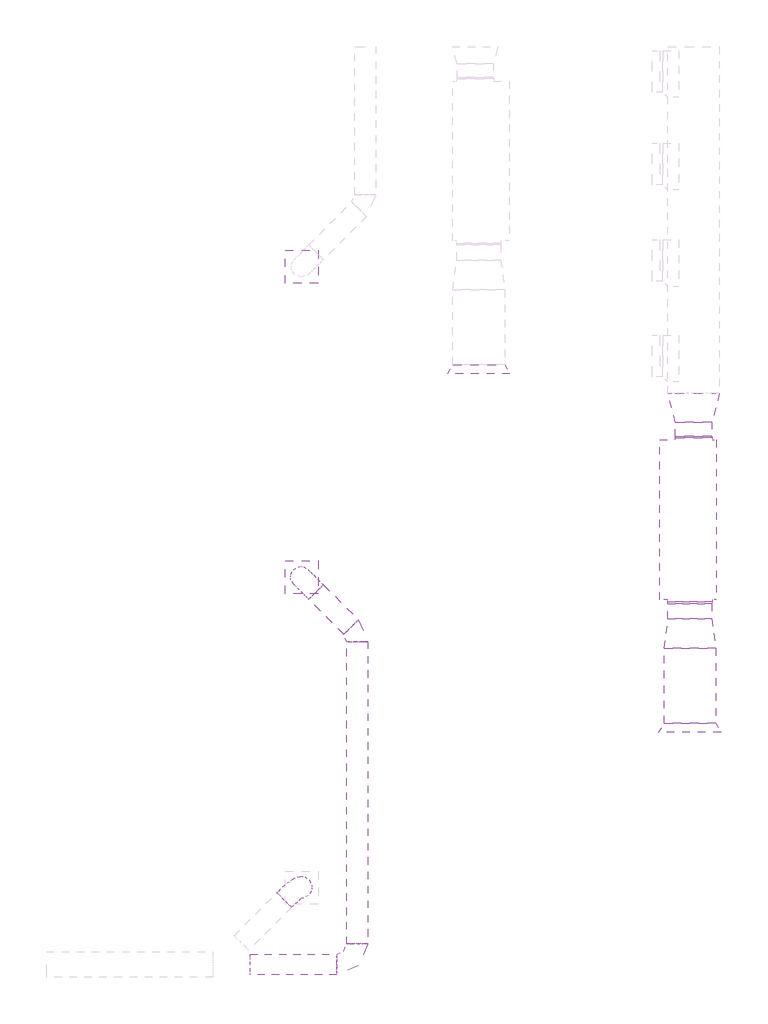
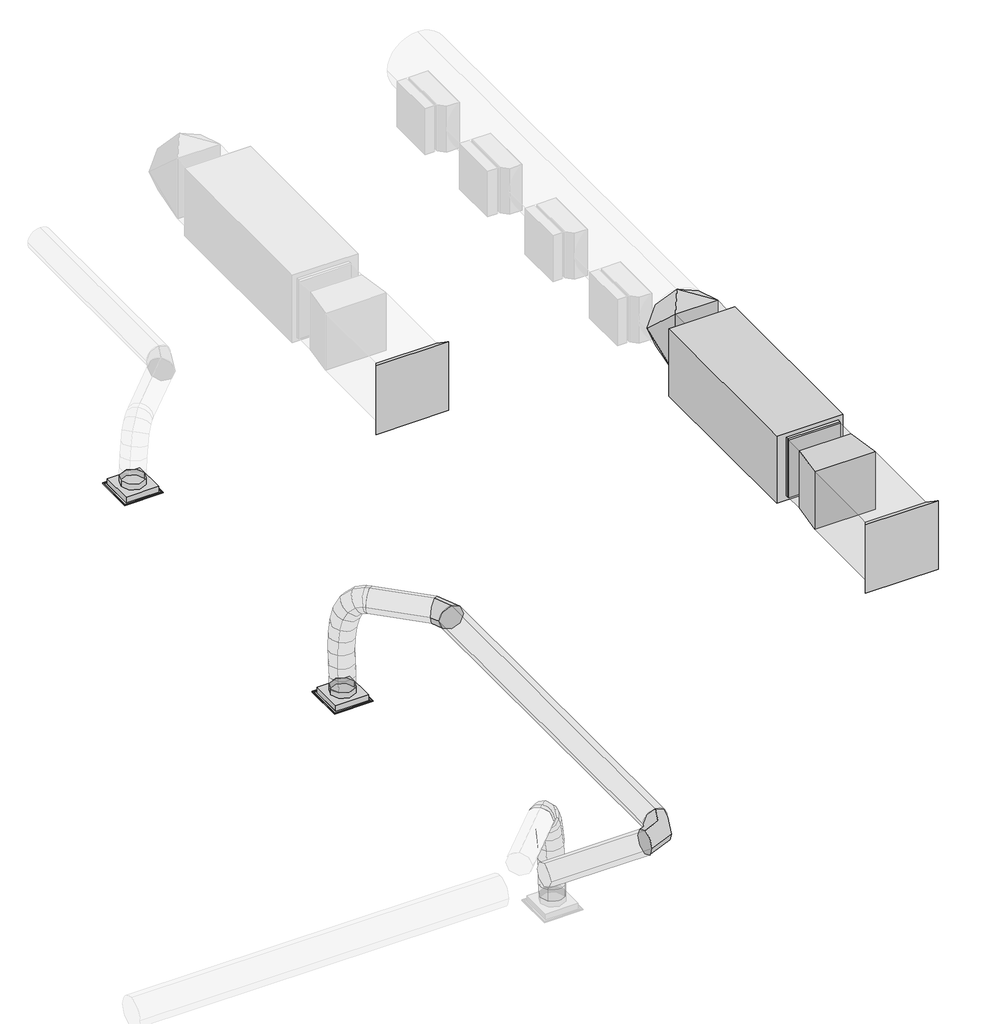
# One storey, part 28 of 33: 8 duct fittings, 8 duct segments, 2 air terminals, 1 proxy.
"""IFC4 building model written with IfcOpenShell, lengths in millimetres."""

from ifc_helpers import new_model, si_unit, point, frame, frame_2d, origin, place, context, project, spatial, polyline, circle_curve, ellipse_curve, trimmed, segment, composite_curve, outline, extrude, transform, mapped, element, save
from ifc_brep_helpers import plane_surface, cylinder_surface, advanced_brep
from components import air_terminal_0721d01d, mechanical_equipment_cb130376, rectangular_transition_angle_15_degree_744037f3, rectangular_transition_angle_45_degree_dbe4abd4, rectangular_transition_angle_45_degree_2e22f6ee, rectangular_transition_angle_60_degree_5d9a766a, rectangular_transition_angle_60_degree_c552a1ca, rectangular_to_round_transition_angle_30_degree_7764bc1d, round_elbow_1_d_a253342a, round_elbow_1_d_ab3aa7ba

model = new_model("IFC4")

# Units and contexts
model_context = context("Model", 3, world=origin())
ifc_project = project(units=[si_unit("LENGTHUNIT", "METRE", prefix="MILLI")], contexts=[model_context])

# Site, building, storey
site = spatial("IfcSite", under=ifc_project)
building = spatial("IfcBuilding", under=site)
storey = spatial("IfcBuildingStorey", under=building, Name="T.O. SLAB - 1ST", Elevation=-25.4)

# Air terminals
placement = place(None, origin())
air_terminal_shape = air_terminal_0721d01d(model_context)
element("IfcAirTerminal", 1, ObjectType="Titus-Round_Neck_Supply_Diffuser-PCS_Surface_Mount : PCS AA-08_12x12", at=placement, inside=storey, context=model_context, shape_type="MappedRepresentation", body=[
    mapped(air_terminal_shape, transform((32951.0705131, 12914.4211025, 3022.6), x_axis=(1.0, 0.0, 0.0), y_axis=(0.0, -1.0, 0.0), z_axis=(0.0, 0.0, -1.0))),
])
element("IfcAirTerminal", 2, ObjectType="Titus-Round_Neck_Supply_Diffuser-PCS_Surface_Mount : PCS AA-08_12x12", at=placement, inside=storey, context=model_context, shape_type="MappedRepresentation", body=[
    mapped(air_terminal_shape, transform((32951.0705131, 9866.4211025, 3022.6), x_axis=(1.0, 0.0, 0.0), y_axis=(0.0, -1.0, 0.0), z_axis=(0.0, 0.0, -1.0))),
])

# Proxy
mechanical_equipment_shape = mechanical_equipment_cb130376(model_context)
element("IfcBuildingElementProxy", 3, Name="FC-4 & 5 : FC-4 & 5", ObjectType="FC-4 & 5 : FC-4 & 5", at=placement, inside=storey, context=model_context, shape_type="MappedRepresentation", body=[
    mapped(mechanical_equipment_shape, transform((36742.477168, 10431.6912741, 3632.2), x_axis=(-1.0, 0.0, 0.0), y_axis=(0.0, -1.0, 0.0), z_axis=(0.0, 0.0, 1.0))),
])

# Duct fittings
rectangular_transition_angle_15_degree_shape = rectangular_transition_angle_15_degree_744037f3(model_context)
element("IfcDuctFitting", 4, ObjectType="Rectangular Transition - Angle : 15 Degree", at=placement, inside=storey, context=model_context, shape_type="MappedRepresentation", body=[
    mapped(rectangular_transition_angle_15_degree_shape, transform((36763.432168, 9171.3569264, 3930.65), x_axis=(0.0, 1.0, 0.0), y_axis=(-1.0, 0.0, 0.0), z_axis=(0.0, 0.0, 1.0))),
])
rectangular_transition_angle_45_degree_shape = rectangular_transition_angle_45_degree_dbe4abd4(model_context)
element("IfcDuctFitting", 5, ObjectType="Rectangular Transition - Angle : 45 Degree", at=placement, inside=storey, context=model_context, shape_type="MappedRepresentation", body=[
    mapped(rectangular_transition_angle_45_degree_shape, transform((36798.992168, 11238.003855, 3930.65), x_axis=(0.0, 1.0, 0.0), y_axis=(-1.0, 0.0, 0.0), z_axis=(0.0, 0.0, 1.0))),
])
rectangular_transition_angle_45_degree_2_shape = rectangular_transition_angle_45_degree_2e22f6ee(model_context)
element("IfcDuctFitting", 6, ObjectType="Rectangular Transition - Angle : 45 Degree", at=placement, inside=storey, context=model_context, shape_type="MappedRepresentation", body=[
    mapped(rectangular_transition_angle_45_degree_2_shape, transform((36763.432168, 9625.3786932, 3930.65), x_axis=(0.0, -1.0, 0.0), y_axis=(1.0, 0.0, 0.0), z_axis=(0.0, 0.0, 1.0))),
])
rectangular_transition_angle_60_degree_shape = rectangular_transition_angle_60_degree_5d9a766a(model_context)
element("IfcDuctFitting", 7, ObjectType="Rectangular Transition - Angle : 60 Degree", at=placement, inside=storey, context=model_context, shape_type="MappedRepresentation", body=[
    mapped(rectangular_transition_angle_60_degree_shape, transform((34690.541406, 11865.9001381, 3930.65), x_axis=(0.0, 1.0, 0.0), y_axis=(-1.0, 0.0, 0.0), z_axis=(0.0, 0.0, 1.0))),
])
rectangular_transition_angle_60_degree_2_shape = rectangular_transition_angle_60_degree_c552a1ca(model_context)
element("IfcDuctFitting", 8, ObjectType="Rectangular Transition - Angle : 60 Degree", at=placement, inside=storey, context=model_context, shape_type="MappedRepresentation", body=[
    mapped(rectangular_transition_angle_60_degree_2_shape, transform((36763.432168, 8345.8531972, 3930.65), x_axis=(0.0, 1.0, 0.0), y_axis=(-1.0, 0.0, 0.0), z_axis=(0.0, 0.0, 1.0))),
])
rectangular_to_round_transition_angle_30_degree_shape = rectangular_to_round_transition_angle_30_degree_7764bc1d(model_context)
element("IfcDuctFitting", 9, ObjectType="Rectangular to Round Transition - Angle : 30 Degree", at=placement, inside=storey, context=model_context, shape_type="MappedRepresentation", body=[
    mapped(rectangular_to_round_transition_angle_30_degree_shape, transform((36798.992168, 11388.2426268, 3930.65), x_axis=(0.0, 1.0, 0.0), y_axis=(-1.0, 0.0, 0.0), z_axis=(0.0, 0.0, 1.0))),
])
round_elbow_1_d_shape = round_elbow_1_d_a253342a(model_context)
element("IfcDuctFitting", 10, ObjectType="Round Elbow : 1 D", at=placement, inside=storey, context=model_context, shape_type="MappedRepresentation", body=[
    mapped(round_elbow_1_d_shape, transform((33497.9407485, 6067.3602571, 3911.6), x_axis=(1.0, 0.0, 0.0), y_axis=(0.0, 1.0, 0.0), z_axis=(0.0, 0.0, 1.0))),
])
round_elbow_1_d_2_shape = round_elbow_1_d_ab3aa7ba(model_context)
element("IfcDuctFitting", 11, ObjectType="Round Elbow : 1 D", at=placement, inside=storey, context=model_context, shape_type="MappedRepresentation", body=[
    mapped(round_elbow_1_d_2_shape, transform((33497.9407485, 9319.5509236, 3911.6), x_axis=(0.0, 1.0, 0.0), y_axis=(-1.0, 0.0, 0.0), z_axis=(0.0, 0.0, 1.0))),
])

# Duct segments
element("IfcDuctSegment", 12, ObjectType="Flex - Rectangular", at=placement, inside=storey, context=model_context, shape_type="SweptSolid", body=[
    extrude(outline(polyline([(36976.792168, 11253.3341112), (36621.192168, 11253.3341112), (36621.192168, 11388.2426268), (36976.792168, 11388.2426268), (36976.792168, 11253.3341112)])), frame((0.0, 0.0, 3663.95), z_axis=(0.0, 0.0, 1.0), x_axis=(1.0, 0.0, 0.0)), (0.0, 0.0, 1.0), 533.4),
])
element("IfcDuctSegment", 13, ObjectType="Flex - Rectangular", at=placement, inside=storey, context=model_context, shape_type="SweptSolid", body=[
    extrude(outline(polyline([(36979.332168, 9460.7551581), (36547.532168, 9460.7551581), (36547.532168, 9610.0484371), (36979.332168, 9610.0484371), (36979.332168, 9460.7551581)])), frame((0.0, 0.0, 3676.65), z_axis=(0.0, 0.0, 1.0), x_axis=(1.0, 0.0, 0.0)), (0.0, 0.0, 1.0), 508.0),
])
element("IfcDuctSegment", 14, ObjectType="Flex - Round", at=placement, inside=storey, context=model_context, shape_type="AdvancedBrep", body=[
    advanced_brep(
    [(32710.1444886, 6771.9792357, 3911.6), (32781.9865375, 6700.1371867, 3810.0), (32853.8285865, 6628.2951378, 3911.6), (32781.9865375, 6700.1371867, 4013.2), (32727.0627676, 6788.8975148, 3911.6), (32786.7691925, 6704.9198417, 3810.0), (32869.2098315, 6643.6763828, 3911.6), (32809.5034066, 6727.6540558, 4013.2), (32883.8425875, 6894.5856537, 3116.4617758), (33027.2455146, 6885.6218515, 3115.8528877), (33018.2984386, 6742.2565513, 3119.2382242), (32874.8955115, 6751.2203534, 3119.8471123), (32769.3017299, 6829.3222917, 3892.6258162), (32801.7358232, 6719.2436478, 3803.2768329), (32908.0928013, 6680.8893089, 3894.1333631), (32875.6587081, 6790.9679528, 3983.4823463), (32813.2896689, 6868.4877861, 3840.5155738), (32821.5524615, 6736.887767, 3779.8010836), (32949.2790229, 6717.5602411, 3845.3421708), (32941.0162302, 6849.1602602, 3906.056661), (32844.354036, 6892.6570892, 3762.6176884), (32840.9047945, 6751.9446456, 3731.2726261), (32979.1210143, 6740.7784878, 3770.5095492), (32982.5702558, 6881.4909314, 3801.8546115), (32864.8203628, 6905.0476197, 3665.9103905), (32857.4288651, 6761.9484925, 3653.1932407), (32999.2727384, 6752.9785544, 3675.2888092), (33006.664236, 6896.0776816, 3688.005959), (32876.9914519, 6908.7754485, 3556.5153369), (32868.394755, 6765.3071862, 3554.6306464), (33011.4108862, 6756.6962938, 3566.1898356), (33020.007583, 6900.1645561, 3568.074526), (32882.9653295, 6906.7571132, 3440.6130915), (32874.0661944, 6763.3910328, 3444.5961604), (33017.4169255, 6754.6670923, 3449.6636059), (33026.3160606, 6898.0331728, 3445.680537), (32884.7682306, 6901.8458371, 3324.5293509), (32875.834317, 6758.5744966, 3330.751709), (33019.2441155, 6749.6896507, 3332.015965), (33028.1780291, 6892.9609912, 3325.7936069), (32884.4028913, 6896.8719438, 3214.7644881), (32875.4647559, 6753.543125, 3219.7184033), (33018.8692138, 6744.5855691, 3219.3780816), (33027.8073492, 6887.914388, 3214.4241663)],
    [
        (0, 1, circle_curve(frame((32781.9865375, 6700.1371867, 3911.6), z_axis=(-0.7071067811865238, -0.7071067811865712, 0.0), x_axis=(-0.7071067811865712, 0.7071067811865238, 0.0)), 101.6)),
        (1, 2, circle_curve(frame((32781.9865375, 6700.1371867, 3911.6), z_axis=(-0.7071067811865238, -0.7071067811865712, 0.0), x_axis=(-0.7071067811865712, 0.7071067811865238, 0.0)), 101.6)),
        (2, 3, circle_curve(frame((32781.9865375, 6700.1371867, 3911.6), z_axis=(-0.7071067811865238, -0.7071067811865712, 0.0), x_axis=(-0.7071067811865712, 0.7071067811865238, 0.0)), 101.6)),
        (3, 0, circle_curve(frame((32781.9865375, 6700.1371867, 3911.6), z_axis=(-0.7071067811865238, -0.7071067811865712, 0.0), x_axis=(-0.7071067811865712, 0.7071067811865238, 0.0)), 101.6)),
        (0, 4),
        (4, 5, ellipse_curve(frame((32798.1362996, 6716.2869488, 3911.6), z_axis=(-0.7058502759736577, -0.6909087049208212, 0.15627075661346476), x_axis=(-0.06364327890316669, -0.15786145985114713, -0.9854081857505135)), 102.8696432, 101.6)),
        (5, 1),
        (5, 6, ellipse_curve(frame((32798.1362996, 6716.2869488, 3911.6), z_axis=(-0.7058502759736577, -0.6909087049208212, 0.15627075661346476), x_axis=(-0.06364327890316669, -0.15786145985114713, -0.9854081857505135)), 102.8696432, 101.6)),
        (6, 2),
        (6, 7, ellipse_curve(frame((32798.1362996, 6716.2869488, 3911.6), z_axis=(-0.7058502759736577, -0.6909087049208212, 0.15627075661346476), x_axis=(-0.06364327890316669, -0.15786145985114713, -0.9854081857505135)), 102.8696432, 101.6)),
        (7, 3),
        (7, 4, ellipse_curve(frame((32798.1362996, 6716.2869488, 3911.6), z_axis=(-0.7058502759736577, -0.6909087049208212, 0.15627075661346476), x_axis=(-0.06364327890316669, -0.15786145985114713, -0.9854081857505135)), 102.8696432, 101.6)),
        (8, 9, circle_curve(frame((32951.0705131, 6818.4211025, 3117.85), z_axis=(-0.005698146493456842, -0.023250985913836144, -0.9997134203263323), x_axis=(-0.6616921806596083, 0.7496510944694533, -0.0136636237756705)), 101.6)),
        (9, 10, circle_curve(frame((32951.0705131, 6818.4211025, 3117.85), z_axis=(-0.005698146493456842, -0.023250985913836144, -0.9997134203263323), x_axis=(-0.6616921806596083, 0.7496510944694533, -0.0136636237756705)), 101.6)),
        (10, 11, circle_curve(frame((32951.0705131, 6818.4211025, 3117.85), z_axis=(-0.005698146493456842, -0.023250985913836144, -0.9997134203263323), x_axis=(-0.6616921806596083, 0.7496510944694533, -0.0136636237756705)), 101.6)),
        (11, 8, circle_curve(frame((32951.0705131, 6818.4211025, 3117.85), z_axis=(-0.005698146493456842, -0.023250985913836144, -0.9997134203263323), x_axis=(-0.6616921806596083, 0.7496510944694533, -0.0136636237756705)), 101.6)),
        (4, 12),
        (12, 13, ellipse_curve(frame((32838.6972656, 6755.1058003, 3893.3795896), z_axis=(-0.6367029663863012, -0.590305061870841, 0.49613432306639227), x_axis=(-0.3126788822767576, -0.39049167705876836, -0.8658799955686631)), 103.7910648, 101.6)),
        (13, 5),
        (13, 14, ellipse_curve(frame((32838.6972656, 6755.1058003, 3893.3795896), z_axis=(-0.6367029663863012, -0.590305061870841, 0.49613432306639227), x_axis=(-0.3126788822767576, -0.39049167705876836, -0.8658799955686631)), 103.7910648, 101.6)),
        (14, 6),
        (14, 15, ellipse_curve(frame((32838.6972656, 6755.1058003, 3893.3795896), z_axis=(-0.6367029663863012, -0.590305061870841, 0.49613432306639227), x_axis=(-0.3126788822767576, -0.39049167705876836, -0.8658799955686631)), 103.7910648, 101.6)),
        (15, 7),
        (15, 12, ellipse_curve(frame((32838.6972656, 6755.1058003, 3893.3795896), z_axis=(-0.6367029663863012, -0.590305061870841, 0.49613432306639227), x_axis=(-0.3126788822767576, -0.39049167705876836, -0.8658799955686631)), 103.7910648, 101.6)),
        (12, 16),
        (16, 17, ellipse_curve(frame((32881.2843459, 6793.0240136, 3842.9288723), z_axis=(-0.4660554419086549, -0.3946030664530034, 0.7918843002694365), x_axis=(-0.5377097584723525, -0.584442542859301, -0.6076965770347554)), 103.4679417, 101.6)),
        (17, 13),
        (17, 18, ellipse_curve(frame((32881.2843459, 6793.0240136, 3842.9288723), z_axis=(-0.4660554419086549, -0.3946030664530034, 0.7918843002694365), x_axis=(-0.5377097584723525, -0.584442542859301, -0.6076965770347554)), 103.4679417, 101.6)),
        (18, 14),
        (18, 19, ellipse_curve(frame((32881.2843459, 6793.0240136, 3842.9288723), z_axis=(-0.4660554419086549, -0.3946030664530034, 0.7918843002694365), x_axis=(-0.5377097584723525, -0.584442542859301, -0.6076965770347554)), 103.4679417, 101.6)),
        (19, 15),
        (19, 16, ellipse_curve(frame((32881.2843459, 6793.0240136, 3842.9288723), z_axis=(-0.4660554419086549, -0.3946030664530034, 0.7918843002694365), x_axis=(-0.5377097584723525, -0.584442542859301, -0.6076965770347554)), 103.4679417, 101.6)),
        (16, 20),
        (20, 21, ellipse_curve(frame((32911.7375252, 6816.7177885, 3766.5636188), z_axis=(-0.28252751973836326, -0.20196879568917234, 0.9377562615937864), x_axis=(-0.6597285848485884, -0.668765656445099, -0.3427983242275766)), 102.267357, 101.6)),
        (21, 17),
        (21, 22, ellipse_curve(frame((32911.7375252, 6816.7177885, 3766.5636188), z_axis=(-0.28252751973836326, -0.20196879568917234, 0.9377562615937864), x_axis=(-0.6597285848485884, -0.668765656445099, -0.3427983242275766)), 102.267357, 101.6)),
        (22, 18),
        (22, 23, ellipse_curve(frame((32911.7375252, 6816.7177885, 3766.5636188), z_axis=(-0.28252751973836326, -0.20196879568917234, 0.9377562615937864), x_axis=(-0.6597285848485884, -0.668765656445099, -0.3427983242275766)), 102.267357, 101.6)),
        (23, 19),
        (23, 20, ellipse_curve(frame((32911.7375252, 6816.7177885, 3766.5636188), z_axis=(-0.28252751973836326, -0.20196879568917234, 0.9377562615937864), x_axis=(-0.6597285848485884, -0.668765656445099, -0.3427983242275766)), 102.267357, 101.6)),
        (20, 24),
        (24, 25, ellipse_curve(frame((32932.0465506, 6829.013087, 3670.5995999), z_axis=(-0.15832634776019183, -0.07928719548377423, 0.9841983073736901), x_axis=(-0.7132039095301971, -0.6801481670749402, -0.16952478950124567)), 101.8257302, 101.6)),
        (25, 21),
        (25, 26, ellipse_curve(frame((32932.0465506, 6829.013087, 3670.5995999), z_axis=(-0.15832634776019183, -0.07928719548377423, 0.9841983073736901), x_axis=(-0.7132039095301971, -0.6801481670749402, -0.16952478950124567)), 101.8257302, 101.6)),
        (26, 22),
        (26, 27, ellipse_curve(frame((32932.0465506, 6829.013087, 3670.5995999), z_axis=(-0.15832634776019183, -0.07928719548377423, 0.9841983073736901), x_axis=(-0.7132039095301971, -0.6801481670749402, -0.16952478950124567)), 101.8257302, 101.6)),
        (27, 23),
        (27, 24, ellipse_curve(frame((32932.0465506, 6829.013087, 3670.5995999), z_axis=(-0.15832634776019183, -0.07928719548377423, 0.9841983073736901), x_axis=(-0.7132039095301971, -0.6801481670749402, -0.16952478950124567)), 101.8257302, 101.6)),
        (24, 28),
        (28, 29, ellipse_curve(frame((32944.201169, 6832.7358711, 3561.3525862), z_axis=(-0.08105160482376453, -0.008236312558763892, 0.9966758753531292), x_axis=(-0.7536062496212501, -0.6539344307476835, -0.06668868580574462)), 101.6780547, 101.6)),
        (29, 25),
        (29, 30, ellipse_curve(frame((32944.201169, 6832.7358711, 3561.3525862), z_axis=(-0.08105160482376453, -0.008236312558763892, 0.9966758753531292), x_axis=(-0.7536062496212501, -0.6539344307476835, -0.06668868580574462)), 101.6780547, 101.6)),
        (30, 26),
        (30, 31, ellipse_curve(frame((32944.201169, 6832.7358711, 3561.3525862), z_axis=(-0.08105160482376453, -0.008236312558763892, 0.9966758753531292), x_axis=(-0.7536062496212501, -0.6539344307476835, -0.06668868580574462)), 101.6780547, 101.6)),
        (31, 27),
        (31, 28, ellipse_curve(frame((32944.201169, 6832.7358711, 3561.3525862), z_axis=(-0.08105160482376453, -0.008236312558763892, 0.9966758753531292), x_axis=(-0.7536062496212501, -0.6539344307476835, -0.06668868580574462)), 101.6780547, 101.6)),
        (28, 32),
        (32, 33, ellipse_curve(frame((32950.1911275, 6830.7121028, 3445.1383487), z_axis=(-0.033498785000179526, 0.029833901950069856, 0.9989933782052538), x_axis=(-0.8222788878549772, -0.5689863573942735, -0.010580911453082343)), 101.6242853, 101.6)),
        (33, 29),
        (33, 34, ellipse_curve(frame((32950.1911275, 6830.7121028, 3445.1383487), z_axis=(-0.033498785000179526, 0.029833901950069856, 0.9989933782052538), x_axis=(-0.8222788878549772, -0.5689863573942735, -0.010580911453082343)), 101.6242853, 101.6)),
        (34, 30),
        (34, 35, ellipse_curve(frame((32950.1911275, 6830.7121028, 3445.1383487), z_axis=(-0.033498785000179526, 0.029833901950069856, 0.9989933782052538), x_axis=(-0.8222788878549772, -0.5689863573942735, -0.010580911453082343)), 101.6242853, 101.6)),
        (35, 31),
        (35, 32, ellipse_curve(frame((32950.1911275, 6830.7121028, 3445.1383487), z_axis=(-0.033498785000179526, 0.029833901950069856, 0.9989933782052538), x_axis=(-0.8222788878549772, -0.5689863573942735, -0.010580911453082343)), 101.6242853, 101.6)),
        (32, 36),
        (36, 37, ellipse_curve(frame((32952.006173, 6825.7677439, 3328.272658), z_axis=(-0.00609544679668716, 0.04376824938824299, 0.9990231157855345), x_axis=(-0.9875398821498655, -0.15736653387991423, 0.0008690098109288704)), 101.6046227, 101.6)),
        (37, 33),
        (37, 38, ellipse_curve(frame((32952.006173, 6825.7677439, 3328.272658), z_axis=(-0.00609544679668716, 0.04376824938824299, 0.9990231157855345), x_axis=(-0.9875398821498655, -0.15736653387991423, 0.0008690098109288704)), 101.6046227, 101.6)),
        (38, 34),
        (38, 39, ellipse_curve(frame((32952.006173, 6825.7677439, 3328.272658), z_axis=(-0.00609544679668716, 0.04376824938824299, 0.9990231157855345), x_axis=(-0.9875398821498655, -0.15736653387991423, 0.0008690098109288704)), 101.6046227, 101.6)),
        (39, 35),
        (39, 36, ellipse_curve(frame((32952.006173, 6825.7677439, 3328.272658), z_axis=(-0.00609544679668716, 0.04376824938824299, 0.9990231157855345), x_axis=(-0.9875398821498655, -0.15736653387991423, 0.0008690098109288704)), 101.6046227, 101.6)),
        (36, 40),
        (40, 41, ellipse_curve(frame((32951.6360526, 6820.7287565, 3217.0712848), z_axis=(0.00451182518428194, 0.034261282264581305, 0.9994027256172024), x_axis=(-0.10711099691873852, 0.993679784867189, -0.03358153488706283)), 101.6062351, 101.6)),
        (41, 37),
        (41, 42, ellipse_curve(frame((32951.6360526, 6820.7287565, 3217.0712848), z_axis=(0.00451182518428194, 0.034261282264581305, 0.9994027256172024), x_axis=(-0.10711099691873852, 0.993679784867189, -0.03358153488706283)), 101.6062351, 101.6)),
        (42, 38),
        (42, 43, ellipse_curve(frame((32951.6360526, 6820.7287565, 3217.0712848), z_axis=(0.00451182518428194, 0.034261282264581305, 0.9994027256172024), x_axis=(-0.10711099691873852, 0.993679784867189, -0.03358153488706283)), 101.6062351, 101.6)),
        (43, 39),
        (43, 40, ellipse_curve(frame((32951.6360526, 6820.7287565, 3217.0712848), z_axis=(0.00451182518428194, 0.034261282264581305, 0.9994027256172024), x_axis=(-0.10711099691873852, 0.993679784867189, -0.03358153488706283)), 101.6062351, 101.6)),
        (40, 8),
        (11, 41),
        (10, 42),
        (9, 43),
    ],
    [
        plane_surface(frame((32781.9865375, 6700.1371867, 4013.2), z_axis=(-0.7071067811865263, -0.7071067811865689, 0.0), x_axis=(0.7071067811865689, -0.7071067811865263, 0.0))),
        cylinder_surface(frame((32781.9865375, 6700.1371867, 3911.6), z_axis=(-0.7071067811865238, -0.7071067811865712, 0.0), x_axis=(-0.7071067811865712, 0.7071067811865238, 0.0)), 101.6),
        plane_surface(frame((32951.0705131, 6919.9936349, 3115.4876615), z_axis=(-0.005698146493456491, -0.023250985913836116, -0.9997134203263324), x_axis=(0.9999837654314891, -0.0001324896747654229, -0.005696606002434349))),
        cylinder_surface(frame((32798.1362996, 6716.2869488, 3911.6), z_axis=(-0.6871702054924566, -0.6576558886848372, 0.3086840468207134), x_axis=(-0.6921917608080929, 0.7217060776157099, -0.0033020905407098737)), 101.6),
        cylinder_surface(frame((32838.6972656, 6755.1058003, 3893.3795896), z_axis=(-0.559353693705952, -0.49803115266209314, 0.6626374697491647), x_axis=(-0.6755667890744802, 0.7371195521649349, -0.016256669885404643)), 101.6),
        cylinder_surface(frame((32881.2843459, 6793.0240136, 3842.9288723), z_axis=(-0.35592947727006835, -0.27692717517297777, 0.8925388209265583), x_axis=(-0.665212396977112, 0.7458864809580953, -0.03385002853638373)), 101.6),
        cylinder_surface(frame((32911.7375252, 6816.7177885, 3766.5636188), z_axis=(-0.20543823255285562, -0.12437447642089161, 0.9707348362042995), x_axis=(-0.6620752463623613, 0.7481291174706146, -0.044262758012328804)), 101.6),
        cylinder_surface(frame((32932.0465506, 6829.013087, 3670.5995999), z_axis=(-0.11051249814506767, -0.03384838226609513, 0.9932981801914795), x_axis=(-0.6614598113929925, 0.7484373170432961, -0.048088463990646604)), 101.6),
        cylinder_surface(frame((32944.201169, 6832.7358711, 3561.3525862), z_axis=(-0.051466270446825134, 0.017388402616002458, 0.9985233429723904), x_axis=(-0.6615377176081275, 0.7484294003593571, -0.04713046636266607)), 101.6),
        cylinder_surface(frame((32950.1911275, 6830.7121028, 3445.1383487), z_axis=(-0.015515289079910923, 0.042265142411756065, 0.9989859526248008), x_axis=(-0.6617114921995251, 0.748584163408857, -0.04194819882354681)), 101.6),
        cylinder_surface(frame((32952.006173, 6825.7677439, 3328.272658), z_axis=(0.0033249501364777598, 0.045267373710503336, 0.9989693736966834), x_axis=(-0.6617737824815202, 0.7490314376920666, -0.03173903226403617)), 101.6),
        cylinder_surface(frame((32951.6360526, 6820.7287565, 3217.0712848), z_axis=(0.005698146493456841, 0.02325098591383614, 0.999713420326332), x_axis=(-0.6616921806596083, 0.7496510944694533, -0.0136636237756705)), 101.6),
    ],
    [
        (0, [[1, 2, 3, 4]]),
        (1, [[-1, 5, 6, 7]]),
        (1, [[-2, -7, 8, 9]]),
        (1, [[-3, -9, 10, 11]]),
        (1, [[-4, -11, 12, -5]]),
        (2, [[13, 14, 15, 16]]),
        (3, [[-6, 17, 18, 19]]),
        (3, [[-8, -19, 20, 21]]),
        (3, [[-10, -21, 22, 23]]),
        (3, [[-12, -23, 24, -17]]),
        (4, [[-18, 25, 26, 27]]),
        (4, [[-20, -27, 28, 29]]),
        (4, [[-22, -29, 30, 31]]),
        (4, [[-24, -31, 32, -25]]),
        (5, [[-26, 33, 34, 35]]),
        (5, [[-28, -35, 36, 37]]),
        (5, [[-30, -37, 38, 39]]),
        (5, [[-32, -39, 40, -33]]),
        (6, [[-34, 41, 42, 43]]),
        (6, [[-36, -43, 44, 45]]),
        (6, [[-38, -45, 46, 47]]),
        (6, [[-40, -47, 48, -41]]),
        (7, [[-42, 49, 50, 51]]),
        (7, [[-44, -51, 52, 53]]),
        (7, [[-46, -53, 54, 55]]),
        (7, [[-48, -55, 56, -49]]),
        (8, [[-50, 57, 58, 59]]),
        (8, [[-52, -59, 60, 61]]),
        (8, [[-54, -61, 62, 63]]),
        (8, [[-56, -63, 64, -57]]),
        (9, [[-58, 65, 66, 67]]),
        (9, [[-60, -67, 68, 69]]),
        (9, [[-62, -69, 70, 71]]),
        (9, [[-64, -71, 72, -65]]),
        (10, [[-66, 73, 74, 75]]),
        (10, [[-68, -75, 76, 77]]),
        (10, [[-70, -77, 78, 79]]),
        (10, [[-72, -79, 80, -73]]),
        (11, [[-74, 81, -16, 82]]),
        (11, [[-76, -82, -15, 83]]),
        (11, [[-78, -83, -14, 84]]),
        (11, [[-80, -84, -13, -81]]),
    ],
),
])
element("IfcDuctSegment", 15, ObjectType="Flex - Round", at=placement, inside=storey, context=model_context, shape_type="AdvancedBrep", body=[
    advanced_brep(
    [(33022.912438, 9650.8951361, 3911.6), (33094.754487, 9722.7371851, 3810.0), (33166.596536, 9794.5792341, 3911.6), (33094.754487, 9722.7371851, 4013.2), (33006.7401085, 9667.0674657, 3911.6), (33089.9751575, 9727.5165146, 3810.0), (33150.4242047, 9810.7515654, 3911.6), (33067.1891556, 9750.3025165, 4013.2), (32879.2284691, 9794.5790485, 3117.8500015), (32879.2434079, 9938.2481976, 3115.7774705), (33022.912557, 9938.2631564, 3117.8499985), (33022.8976182, 9794.5940073, 3119.9225295), (32967.1216262, 9706.685946, 3893.3709536), (33075.4363192, 9742.0553522, 3803.3104667), (33110.8057188, 9850.3700493, 3893.3709519), (33002.4910258, 9815.0006432, 3983.4314389), (32926.8949338, 9746.9126332, 3842.8986461), (33056.7679414, 9760.7237276, 3779.8873103), (33070.5790234, 9890.5967395, 3842.8986407), (32940.7060158, 9876.7856452, 3905.9099764), (32899.8290875, 9773.978472, 3766.5053246), (33039.5977227, 9777.8939415, 3731.4243868), (33043.5131759, 9917.6625795, 3766.5053158), (32903.7445407, 9913.74711, 3801.5862535), (32883.520814, 9790.2867366, 3670.5132367), (33026.3365015, 9791.1551554, 3653.3675458), (33027.2049021, 9933.9708443, 3670.5132263), (32884.3892146, 9933.1024254, 3687.6589172), (32875.5668401, 9798.240701, 3561.2446312), (33019.1611201, 9798.3305284, 3554.7949412), (33019.2509282, 9941.9248088, 3561.2446204), (32875.6566483, 9941.8349815, 3567.6943104), (32873.5638923, 9800.2436399, 3445.0217565), (33017.2643558, 9800.2272842, 3444.733463), (33017.2479804, 9943.9277477, 3445.0217464), (32873.5475169, 9943.9441034, 3445.3100398), (32875.108697, 9798.6988278, 3328.1668609), (33018.7698313, 9798.7218014, 3330.8535764), (33018.792785, 9942.3829356, 3328.1668526), (32875.1316507, 9942.3599619, 3325.4801371), (32877.7979804, 9796.0095391, 3217.0021927), (33021.4570183, 9796.0346092, 3219.7755673), (33021.4820684, 9939.693647, 3217.0021876), (32877.8230306, 9939.6685768, 3214.228813)],
    [
        (0, 1, circle_curve(frame((33094.754487, 9722.7371851, 3911.6), z_axis=(0.7071067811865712, -0.7071067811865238, 0.0), x_axis=(-0.7071067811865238, -0.7071067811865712, 0.0)), 101.6)),
        (1, 2, circle_curve(frame((33094.754487, 9722.7371851, 3911.6), z_axis=(0.7071067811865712, -0.7071067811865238, 0.0), x_axis=(-0.7071067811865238, -0.7071067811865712, 0.0)), 101.6)),
        (2, 3, circle_curve(frame((33094.754487, 9722.7371851, 3911.6), z_axis=(0.7071067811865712, -0.7071067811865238, 0.0), x_axis=(-0.7071067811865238, -0.7071067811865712, 0.0)), 101.6)),
        (3, 0, circle_curve(frame((33094.754487, 9722.7371851, 3911.6), z_axis=(0.7071067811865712, -0.7071067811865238, 0.0), x_axis=(-0.7071067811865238, -0.7071067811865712, 0.0)), 101.6)),
        (0, 4),
        (4, 5, ellipse_curve(frame((33078.5821566, 9738.9095155, 3911.6), z_axis=(0.6983795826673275, -0.6983795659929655, 0.1566267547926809), x_axis=(0.11075178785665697, -0.11075189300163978, -0.9876578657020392)), 102.8696308, 101.6)),
        (5, 1),
        (5, 6, ellipse_curve(frame((33078.5821566, 9738.9095155, 3911.6), z_axis=(0.6983795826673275, -0.6983795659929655, 0.1566267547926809), x_axis=(0.11075178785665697, -0.11075189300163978, -0.9876578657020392)), 102.8696308, 101.6)),
        (6, 2),
        (6, 7, ellipse_curve(frame((33078.5821566, 9738.9095155, 3911.6), z_axis=(0.6983795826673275, -0.6983795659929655, 0.1566267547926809), x_axis=(0.11075178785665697, -0.11075189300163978, -0.9876578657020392)), 102.8696308, 101.6)),
        (7, 3),
        (7, 4, ellipse_curve(frame((33078.5821566, 9738.9095155, 3911.6), z_axis=(0.6983795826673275, -0.6983795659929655, 0.1566267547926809), x_axis=(0.11075178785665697, -0.11075189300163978, -0.9876578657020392)), 102.8696308, 101.6)),
        (8, 9, circle_curve(frame((32951.0705131, 9866.4211025, 3117.85), z_axis=(0.014424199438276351, -0.014424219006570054, -0.999791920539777), x_axis=(-0.7071067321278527, -0.707106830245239, 1.525531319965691e-08)), 101.6)),
        (9, 10, circle_curve(frame((32951.0705131, 9866.4211025, 3117.85), z_axis=(0.014424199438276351, -0.014424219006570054, -0.999791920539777), x_axis=(-0.7071067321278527, -0.707106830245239, 1.525531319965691e-08)), 101.6)),
        (10, 11, circle_curve(frame((32951.0705131, 9866.4211025, 3117.85), z_axis=(0.014424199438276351, -0.014424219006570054, -0.999791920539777), x_axis=(-0.7071067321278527, -0.707106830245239, 1.525531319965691e-08)), 101.6)),
        (11, 8, circle_curve(frame((32951.0705131, 9866.4211025, 3117.85), z_axis=(0.014424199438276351, -0.014424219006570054, -0.999791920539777), x_axis=(-0.7071067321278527, -0.707106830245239, 1.525531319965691e-08)), 101.6)),
        (4, 12),
        (12, 13, ellipse_curve(frame((33038.9636725, 9778.5279977, 3893.3709528), z_axis=(0.6135970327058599, -0.6135969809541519, 0.4969883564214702), x_axis=(0.3514237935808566, -0.3514238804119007, -0.8677572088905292)), 103.7853505, 101.6)),
        (13, 5),
        (13, 14, ellipse_curve(frame((33038.9636725, 9778.5279977, 3893.3709528), z_axis=(0.6135970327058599, -0.6135969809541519, 0.4969883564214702), x_axis=(0.3514237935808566, -0.3514238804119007, -0.8677572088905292)), 103.7853505, 101.6)),
        (14, 6),
        (14, 15, ellipse_curve(frame((33038.9636725, 9778.5279977, 3893.3709528), z_axis=(0.6135970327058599, -0.6135969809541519, 0.4969883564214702), x_axis=(0.3514237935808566, -0.3514238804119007, -0.8677572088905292)), 103.7853505, 101.6)),
        (15, 7),
        (15, 12, ellipse_curve(frame((33038.9636725, 9778.5279977, 3893.3709528), z_axis=(0.6135970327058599, -0.6135969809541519, 0.4969883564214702), x_axis=(0.3514237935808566, -0.3514238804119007, -0.8677572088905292)), 103.7853505, 101.6)),
        (12, 16),
        (16, 17, ellipse_curve(frame((32998.7369786, 9818.7546864, 3842.8986434), z_axis=(0.43062371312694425, -0.43062363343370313, 0.793174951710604), x_axis=(0.5608593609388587, -0.5608594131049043, -0.608993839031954)), 103.4679318, 101.6)),
        (17, 13),
        (17, 18, ellipse_curve(frame((32998.7369786, 9818.7546864, 3842.8986434), z_axis=(0.43062371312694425, -0.43062363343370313, 0.793174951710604), x_axis=(0.5608593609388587, -0.5608594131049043, -0.608993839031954)), 103.4679318, 101.6)),
        (18, 14),
        (18, 19, ellipse_curve(frame((32998.7369786, 9818.7546864, 3842.8986434), z_axis=(0.43062371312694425, -0.43062363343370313, 0.793174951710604), x_axis=(0.5608593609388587, -0.5608594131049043, -0.608993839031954)), 103.4679318, 101.6)),
        (19, 15),
        (19, 16, ellipse_curve(frame((32998.7369786, 9818.7546864, 3842.8986434), z_axis=(0.43062371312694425, -0.43062363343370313, 0.793174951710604), x_axis=(0.5608593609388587, -0.5608594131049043, -0.608993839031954)), 103.4679318, 101.6)),
        (16, 20),
        (20, 21, ellipse_curve(frame((32971.6711317, 9845.8205258, 3766.5053202), z_axis=(0.24255881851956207, -0.24255872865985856, 0.939324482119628), x_axis=(0.664202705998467, -0.6642027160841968, -0.343029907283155)), 102.2678566, 101.6)),
        (21, 17),
        (21, 22, ellipse_curve(frame((32971.6711317, 9845.8205258, 3766.5053202), z_axis=(0.24255881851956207, -0.24255872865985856, 0.939324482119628), x_axis=(0.664202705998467, -0.6642027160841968, -0.343029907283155)), 102.2678566, 101.6)),
        (22, 18),
        (22, 23, ellipse_curve(frame((32971.6711317, 9845.8205258, 3766.5053202), z_axis=(0.24255881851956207, -0.24255872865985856, 0.939324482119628), x_axis=(0.664202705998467, -0.6642027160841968, -0.343029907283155)), 102.2678566, 101.6)),
        (23, 19),
        (23, 20, ellipse_curve(frame((32971.6711317, 9845.8205258, 3766.5053202), z_axis=(0.24255881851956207, -0.24255872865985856, 0.939324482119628), x_axis=(0.664202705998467, -0.6642027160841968, -0.343029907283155)), 102.2678566, 101.6)),
        (20, 24),
        (24, 25, ellipse_curve(frame((32955.3628581, 9862.1287904, 3670.5132315), z_axis=(0.11906449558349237, -0.11906440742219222, 0.9857217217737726), x_axis=(0.6970105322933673, -0.6970104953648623, -0.16838256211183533)), 101.82578, 101.6)),
        (25, 21),
        (25, 26, ellipse_curve(frame((32955.3628581, 9862.1287904, 3670.5132315), z_axis=(0.11906449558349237, -0.11906440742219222, 0.9857217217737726), x_axis=(0.6970105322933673, -0.6970104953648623, -0.16838256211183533)), 101.82578, 101.6)),
        (26, 22),
        (26, 27, ellipse_curve(frame((32955.3628581, 9862.1287904, 3670.5132315), z_axis=(0.11906449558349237, -0.11906440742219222, 0.9857217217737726), x_axis=(0.6970105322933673, -0.6970104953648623, -0.16838256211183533)), 101.82578, 101.6)),
        (27, 23),
        (27, 24, ellipse_curve(frame((32955.3628581, 9862.1287904, 3670.5132315), z_axis=(0.11906449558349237, -0.11906440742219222, 0.9857217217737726), x_axis=(0.6970105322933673, -0.6970104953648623, -0.16838256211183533)), 101.82578, 101.6)),
        (24, 28),
        (28, 29, ellipse_curve(frame((32947.4088842, 9870.0827549, 3561.2446258), z_axis=(0.04485366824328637, -0.04485358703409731, 0.9979861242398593), x_axis=(0.7056828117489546, -0.7056827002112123, -0.0634326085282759)), 101.6777449, 101.6)),
        (29, 25),
        (29, 30, ellipse_curve(frame((32947.4088842, 9870.0827549, 3561.2446258), z_axis=(0.04485366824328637, -0.04485358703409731, 0.9979861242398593), x_axis=(0.7056828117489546, -0.7056827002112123, -0.0634326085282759)), 101.6777449, 101.6)),
        (30, 26),
        (30, 31, ellipse_curve(frame((32947.4088842, 9870.0827549, 3561.2446258), z_axis=(0.04485366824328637, -0.04485358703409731, 0.9979861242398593), x_axis=(0.7056828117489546, -0.7056827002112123, -0.0634326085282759)), 101.6777449, 101.6)),
        (31, 27),
        (31, 28, ellipse_curve(frame((32947.4088842, 9870.0827549, 3561.2446258), z_axis=(0.04485366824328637, -0.04485358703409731, 0.9979861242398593), x_axis=(0.7056828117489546, -0.7056827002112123, -0.0634326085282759)), 101.6777449, 101.6)),
        (28, 32),
        (32, 33, ellipse_curve(frame((32945.4059364, 9872.0856938, 3445.0217514), z_axis=(0.0020059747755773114, -0.0020059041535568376, 0.9999959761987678), x_axis=(0.7071040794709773, -0.7071037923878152, -0.0028368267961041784)), 101.6235533, 101.6)),
        (33, 29),
        (33, 34, ellipse_curve(frame((32945.4059364, 9872.0856938, 3445.0217514), z_axis=(0.0020059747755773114, -0.0020059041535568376, 0.9999959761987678), x_axis=(0.7071040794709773, -0.7071037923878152, -0.0028368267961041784)), 101.6235533, 101.6)),
        (34, 30),
        (34, 35, ellipse_curve(frame((32945.4059364, 9872.0856938, 3445.0217514), z_axis=(0.0020059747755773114, -0.0020059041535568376, 0.9999959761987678), x_axis=(0.7071040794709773, -0.7071037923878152, -0.0028368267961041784)), 101.6235533, 101.6)),
        (35, 31),
        (35, 32, ellipse_curve(frame((32945.4059364, 9872.0856938, 3445.0217514), z_axis=(0.0020059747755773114, -0.0020059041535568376, 0.9999959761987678), x_axis=(0.7071040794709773, -0.7071037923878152, -0.0028368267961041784)), 101.6235533, 101.6)),
        (32, 36),
        (36, 37, ellipse_curve(frame((32946.950741, 9870.5408817, 3328.1668567), z_axis=(-0.01869820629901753, 0.018698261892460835, 0.9996503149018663), x_axis=(0.7068600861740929, -0.7068589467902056, 0.026443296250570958)), 101.6030535, 101.6)),
        (37, 33),
        (37, 38, ellipse_curve(frame((32946.950741, 9870.5408817, 3328.1668567), z_axis=(-0.01869820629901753, 0.018698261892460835, 0.9996503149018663), x_axis=(0.7068600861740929, -0.7068589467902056, 0.026443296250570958)), 101.6030535, 101.6)),
        (38, 34),
        (38, 39, ellipse_curve(frame((32946.950741, 9870.5408817, 3328.1668567), z_axis=(-0.01869820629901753, 0.018698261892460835, 0.9996503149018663), x_axis=(0.7068600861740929, -0.7068589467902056, 0.026443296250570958)), 101.6030535, 101.6)),
        (39, 35),
        (39, 36, ellipse_curve(frame((32946.950741, 9870.5408817, 3328.1668567), z_axis=(-0.01869820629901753, 0.018698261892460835, 0.9996503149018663), x_axis=(0.7068600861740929, -0.7068589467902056, 0.026443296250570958)), 101.6030535, 101.6)),
        (36, 40),
        (40, 41, ellipse_curve(frame((32949.6400244, 9867.851593, 3217.0021901), z_axis=(-0.019301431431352, 0.01930146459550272, 0.9996273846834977), x_axis=(-0.7068423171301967, 0.7068442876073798, -0.027296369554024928)), 101.6024182, 101.6)),
        (41, 37),
        (41, 42, ellipse_curve(frame((32949.6400244, 9867.851593, 3217.0021901), z_axis=(-0.019301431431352, 0.01930146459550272, 0.9996273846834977), x_axis=(-0.7068423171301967, 0.7068442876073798, -0.027296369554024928)), 101.6024182, 101.6)),
        (42, 38),
        (42, 43, ellipse_curve(frame((32949.6400244, 9867.851593, 3217.0021901), z_axis=(-0.019301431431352, 0.01930146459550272, 0.9996273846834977), x_axis=(-0.7068423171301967, 0.7068442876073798, -0.027296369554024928)), 101.6024182, 101.6)),
        (43, 39),
        (43, 40, ellipse_curve(frame((32949.6400244, 9867.851593, 3217.0021901), z_axis=(-0.019301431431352, 0.01930146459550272, 0.9996273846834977), x_axis=(-0.7068423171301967, 0.7068442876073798, -0.027296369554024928)), 101.6024182, 101.6)),
        (40, 8),
        (11, 41),
        (10, 42),
        (9, 43),
    ],
    [
        plane_surface(frame((33094.754487, 9722.7371851, 4013.2), z_axis=(0.7071067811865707, -0.7071067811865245, 0.0), x_axis=(0.7071067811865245, 0.7071067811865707, 0.0))),
        cylinder_surface(frame((33094.754487, 9722.7371851, 3911.6), z_axis=(0.7071067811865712, -0.7071067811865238, 0.0), x_axis=(-0.7071067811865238, -0.7071067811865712, 0.0)), 101.6),
        plane_surface(frame((32951.0705131, 9968.0105304, 3116.3843469), z_axis=(0.014424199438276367, -0.014424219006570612, -0.9997919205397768), x_axis=(0.9998959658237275, 0.0002080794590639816, 0.01442269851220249))),
        cylinder_surface(frame((33078.5821566, 9738.9095155, 3911.6), z_axis=(0.6724133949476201, -0.6724133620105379, 0.30938729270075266), x_axis=(-0.707106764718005, -0.7071067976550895, 3.693422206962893e-09)), 101.6),
        cylinder_surface(frame((33038.9636725, 9778.5279977, 3893.3709528), z_axis=(0.5289403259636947, -0.5289402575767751, 0.6636598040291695), x_axis=(-0.7071067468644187, -0.7071068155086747, 1.815409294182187e-08)), 101.6),
        cylinder_surface(frame((32998.7369786, 9818.7546864, 3842.8986434), z_axis=(0.3167587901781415, -0.3167587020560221, 0.8940513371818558), x_axis=(-0.7071067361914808, -0.7071068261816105, 3.7812803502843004e-08)), 101.6),
        cylinder_surface(frame((32971.6711317, 9845.8205258, 3766.5053202), z_axis=(0.16519080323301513, -0.16519071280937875, 0.9723291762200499), x_axis=(-0.7071067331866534, -0.7071068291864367, 4.9449189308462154e-08)), 101.6),
        cylinder_surface(frame((32955.3628581, 9862.1287904, 3670.5132315), z_axis=(0.07241018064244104, -0.07241009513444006, 0.9947429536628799), x_axis=(-0.7071067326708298, -0.7071068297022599, 5.371963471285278e-08)), 101.6),
        cylinder_surface(frame((32947.4088842, 9870.0827549, 3561.2446258), z_axis=(0.017228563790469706, -0.017228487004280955, 0.9997031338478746), x_axis=(-0.7071067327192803, -0.7071068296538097, 5.2641623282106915e-08)), 101.6),
        cylinder_surface(frame((32945.4059364, 9872.0856938, 3445.0217514), z_axis=(-0.013217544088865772, 0.013217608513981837, 0.9998252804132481), x_axis=(-0.707106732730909, -0.7071068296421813, 4.6844553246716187e-08)), 101.6),
        cylinder_surface(frame((32946.950741, 9870.5408817, 3328.1668567), z_axis=(-0.02417774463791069, 0.024177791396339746, 0.9994152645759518), x_axis=(-0.7071067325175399, -0.7071068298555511, 3.543733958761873e-08)), 101.6),
        cylinder_surface(frame((32949.6400244, 9867.851593, 3217.0021901), z_axis=(-0.014424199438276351, 0.014424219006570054, 0.999791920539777), x_axis=(-0.7071067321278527, -0.707106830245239, 1.525531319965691e-08)), 101.6),
    ],
    [
        (0, [[1, 2, 3, 4]]),
        (1, [[-1, 5, 6, 7]]),
        (1, [[-2, -7, 8, 9]]),
        (1, [[-3, -9, 10, 11]]),
        (1, [[-4, -11, 12, -5]]),
        (2, [[13, 14, 15, 16]]),
        (3, [[-6, 17, 18, 19]]),
        (3, [[-8, -19, 20, 21]]),
        (3, [[-10, -21, 22, 23]]),
        (3, [[-12, -23, 24, -17]]),
        (4, [[-18, 25, 26, 27]]),
        (4, [[-20, -27, 28, 29]]),
        (4, [[-22, -29, 30, 31]]),
        (4, [[-24, -31, 32, -25]]),
        (5, [[-26, 33, 34, 35]]),
        (5, [[-28, -35, 36, 37]]),
        (5, [[-30, -37, 38, 39]]),
        (5, [[-32, -39, 40, -33]]),
        (6, [[-34, 41, 42, 43]]),
        (6, [[-36, -43, 44, 45]]),
        (6, [[-38, -45, 46, 47]]),
        (6, [[-40, -47, 48, -41]]),
        (7, [[-42, 49, 50, 51]]),
        (7, [[-44, -51, 52, 53]]),
        (7, [[-46, -53, 54, 55]]),
        (7, [[-48, -55, 56, -49]]),
        (8, [[-50, 57, 58, 59]]),
        (8, [[-52, -59, 60, 61]]),
        (8, [[-54, -61, 62, 63]]),
        (8, [[-56, -63, 64, -57]]),
        (9, [[-58, 65, 66, 67]]),
        (9, [[-60, -67, 68, 69]]),
        (9, [[-62, -69, 70, 71]]),
        (9, [[-64, -71, 72, -65]]),
        (10, [[-66, 73, 74, 75]]),
        (10, [[-68, -75, 76, 77]]),
        (10, [[-70, -77, 78, 79]]),
        (10, [[-72, -79, 80, -73]]),
        (11, [[-74, 81, -16, 82]]),
        (11, [[-76, -82, -15, 83]]),
        (11, [[-78, -83, -14, 84]]),
        (11, [[-80, -84, -13, -81]]),
    ],
),
])
element("IfcDuctSegment", 16, ObjectType="Mitered Elbows / Taps", at=placement, inside=storey, context=model_context, shape_type="SweptSolid", body=[
    extrude(outline(polyline([(37017.432168, 8433.8413783), (36509.432168, 8433.8413783), (36509.432168, 9171.3569264), (37017.432168, 9171.3569264), (37017.432168, 8433.8413783)])), frame((0.0, 0.0, 3676.65), z_axis=(0.0, 0.0, 1.0), x_axis=(1.0, 0.0, 0.0)), (0.0, 0.0, 1.0), 508.0),
])
element("IfcDuctSegment", 17, ObjectType="Taps", at=placement, inside=storey, context=model_context, shape_type="SweptSolid", body=[
    extrude(outline(composite_curve([segment(trimmed(circle_curve(frame_2d((6067.3602571, 3911.6)), 101.6), [point((5965.7602571, 3911.6))], [point((6067.3602571, 4013.2))], False, "CARTESIAN"), True, "CONTINUOUS"), segment(trimmed(circle_curve(frame_2d((6067.3602571, 3911.6)), 101.6), [point((6067.3602571, 4013.2))], [point((6168.9602571, 3911.6))], False, "CARTESIAN"), True, "CONTINUOUS"), segment(trimmed(circle_curve(frame_2d((6067.3602571, 3911.6)), 101.6), [point((6168.9602571, 3911.6))], [point((6067.3602571, 3810.0))], False, "CARTESIAN"), True, "CONTINUOUS"), segment(trimmed(circle_curve(frame_2d((6067.3602571, 3911.6)), 101.6), [point((6067.3602571, 3810.0))], [point((5965.7602571, 3911.6))], False, "CARTESIAN"), True, "CONTINUOUS")], self_intersect=False)), frame((32448.776042, 0.0, 0.0), z_axis=(1.0, 0.0, 0.0), x_axis=(0.0, 1.0, 0.0)), (0.0, 0.0, 1.0), 845.9647065),
])
element("IfcDuctSegment", 18, ObjectType="Taps", at=placement, inside=storey, context=model_context, shape_type="SweptSolid", body=[
    extrude(outline(composite_curve([segment(trimmed(circle_curve(frame_2d((3911.6, 33497.9407485)), 101.6), [point((3911.6, 33599.5407485))], [point((4013.2, 33497.9407485))], False, "CARTESIAN"), True, "CONTINUOUS"), segment(trimmed(circle_curve(frame_2d((3911.6, 33497.9407485)), 101.6), [point((4013.2, 33497.9407485))], [point((3911.6, 33396.3407485))], False, "CARTESIAN"), True, "CONTINUOUS"), segment(trimmed(circle_curve(frame_2d((3911.6, 33497.9407485)), 101.6), [point((3911.6, 33396.3407485))], [point((3810.0, 33497.9407485))], False, "CARTESIAN"), True, "CONTINUOUS"), segment(trimmed(circle_curve(frame_2d((3911.6, 33497.9407485)), 101.6), [point((3810.0, 33497.9407485))], [point((3911.6, 33599.5407485))], False, "CARTESIAN"), True, "CONTINUOUS")], self_intersect=False)), frame((0.0, 6270.5602571, 0.0), z_axis=(0.0, 1.0, 0.0), x_axis=(0.0, 0.0, 1.0)), (0.0, 0.0, 1.0), 2964.8224707),
])
element("IfcDuctSegment", 19, ObjectType="Taps", at=placement, inside=storey, context=model_context, shape_type="SweptSolid", body=[
    extrude(outline(composite_curve([segment(trimmed(circle_curve(frame_2d((0.0, 101.6)), 101.6), [point((101.6, 101.6))], [point((0.0, 0.0))], False, "CARTESIAN"), True, "CONTINUOUS"), segment(trimmed(circle_curve(frame_2d((0.0, 101.6)), 101.6), [point((0.0, 0.0))], [point((-101.6, 101.6))], False, "CARTESIAN"), True, "CONTINUOUS"), segment(trimmed(circle_curve(frame_2d((0.0, 101.6)), 101.6), [point((-101.6, 101.6))], [point((0.0, 203.2))], False, "CARTESIAN"), True, "CONTINUOUS"), segment(trimmed(circle_curve(frame_2d((0.0, 101.6)), 101.6), [point((0.0, 203.2))], [point((101.6, 101.6))], False, "CARTESIAN"), True, "CONTINUOUS")], self_intersect=False)), frame((33438.4248464, 9379.0668257, 4013.2), z_axis=(-0.7071067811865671, 0.707106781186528, 0.0), x_axis=(0.707106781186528, 0.7071067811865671, 0.0)), (0.0, 0.0, 1.0), 486.0232833),
])

save(model, "model.ifc")
